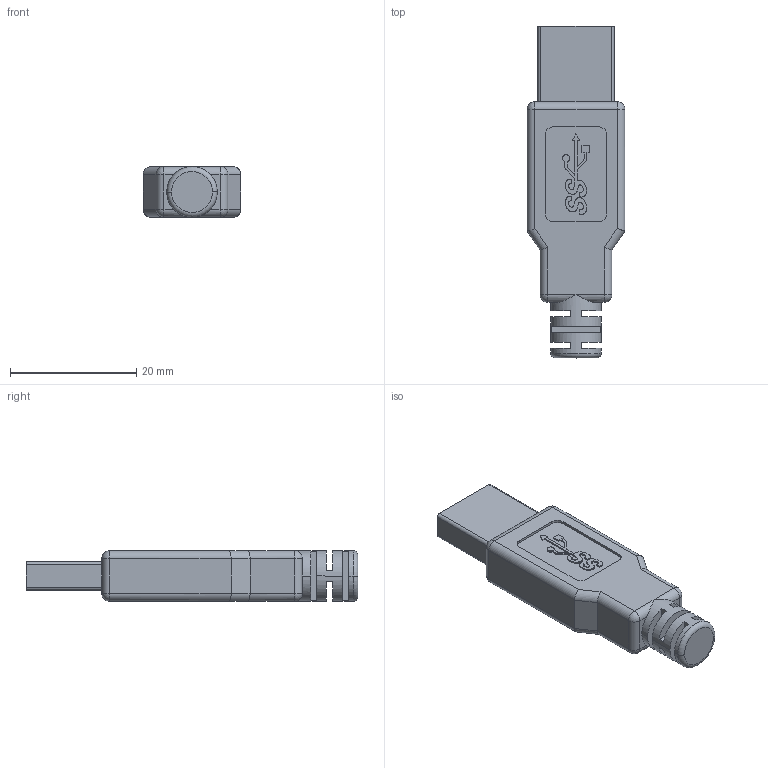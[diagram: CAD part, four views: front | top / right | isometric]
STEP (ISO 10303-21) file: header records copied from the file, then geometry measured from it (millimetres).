
FILE_DESCRIPTION((''),'2;1');
FILE_NAME('PRT0003','2011-10-10T',('Administrator'),(''),'PRO/ENGINEER BY PARAMETRIC TECHNOLOGY CORPORATION, 2007170','PRO/ENGINEER BY PARAMETRIC TECHNOLOGY CORPORATION, 2007170','');
FILE_SCHEMA(('CONFIG_CONTROL_DESIGN'));
Length unit declared in the file: millimetre
Products named in the file (1): PRT0003
Bounding box: 15.5 x 52.6 x 8 mm (x, y, z)
Volume: 4418.4 mm3; surface area: 2384.8 mm2
Topology: 1 solids, 1 shells, 157 faces, 412 edges, 264 vertices
Faces by surface type: plane 73, cylinder 37, extrusion 37, sphere 8, torus 2
Entity records: 5096 total; most frequent: CARTESIAN_POINT 1289, ORIENTED_EDGE 824, DIRECTION 687, EDGE_CURVE 412, VECTOR 279, VERTEX_POINT 264, LINE 242, AXIS2_PLACEMENT_3D 204
